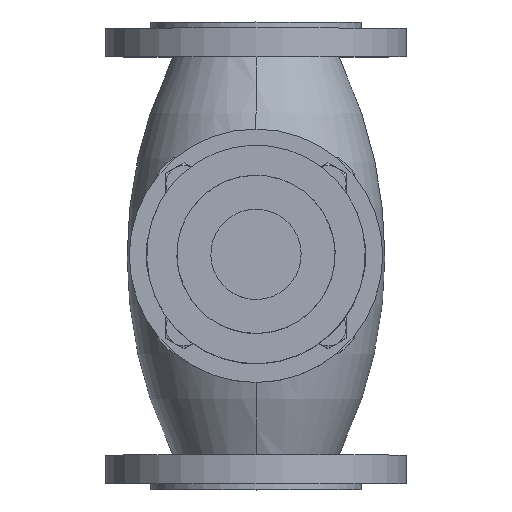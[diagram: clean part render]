
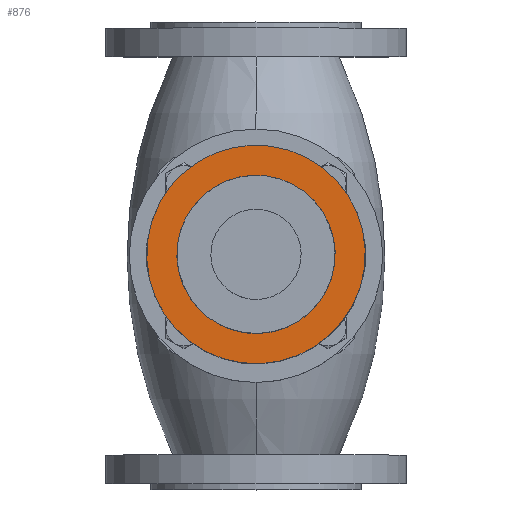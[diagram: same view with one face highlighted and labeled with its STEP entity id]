
A CAD part, top view. The second image highlights one B-rep face of the part: STEP entity #876.
In plain terms, the highlighted planar face has unit normal (0, 0, 1).
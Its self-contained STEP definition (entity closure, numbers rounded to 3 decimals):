
#824 = ORIENTED_EDGE ( 'NONE', *, *, #946, .T. ) ;
#876 = ADVANCED_FACE ( 'NONE', ( #11021, #2956 ), #7474, .F. ) ;
#946 = EDGE_CURVE ( 'NONE', #5479, #6588, #10511, .T. ) ;
#1181 = DIRECTION ( 'NONE',  ( 0., -1., 0. ) ) ;
#2091 = VERTEX_POINT ( 'NONE', #6744 ) ;
#2362 = EDGE_LOOP ( 'NONE', ( #824, #10964 ) ) ;
#2544 = EDGE_CURVE ( 'NONE', #6588, #5479, #3979, .T. ) ;
#2678 = DIRECTION ( 'NONE',  ( -0.924, -0.383, 0. ) ) ;
#2708 = ORIENTED_EDGE ( 'NONE', *, *, #11374, .F. ) ;
#2738 = CARTESIAN_POINT ( 'NONE',  ( 72.5, -175., 44. ) ) ;
#2956 = FACE_BOUND ( 'NONE', #5549, .T. ) ;
#3743 = CARTESIAN_POINT ( 'NONE',  ( 23.996, -195.091, 44. ) ) ;
#3979 = CIRCLE ( 'NONE', #6433, 72.434 ) ;
#4449 = AXIS2_PLACEMENT_3D ( 'NONE', #6540, #10146, #1181 ) ;
#4476 = AXIS2_PLACEMENT_3D ( 'NONE', #9750, #6045, #5317 ) ;
#5317 = DIRECTION ( 'NONE',  ( -0.924, -0.383, 0. ) ) ;
#5479 = VERTEX_POINT ( 'NONE', #7812 ) ;
#5549 = EDGE_LOOP ( 'NONE', ( #2708, #6192 ) ) ;
#5893 = DIRECTION ( 'NONE',  ( 0., 0., 1. ) ) ;
#6045 = DIRECTION ( 'NONE',  ( 0., 0., 1. ) ) ;
#6192 = ORIENTED_EDGE ( 'NONE', *, *, #6529, .F. ) ;
#6433 = AXIS2_PLACEMENT_3D ( 'NONE', #2738, #10750, #2678 ) ;
#6529 = EDGE_CURVE ( 'NONE', #7497, #2091, #9147, .T. ) ;
#6540 = CARTESIAN_POINT ( 'NONE',  ( 5.579, -202.719, 44. ) ) ;
#6588 = VERTEX_POINT ( 'NONE', #7595 ) ;
#6744 = CARTESIAN_POINT ( 'NONE',  ( 121.004, -154.909, 44. ) ) ;
#6961 = CARTESIAN_POINT ( 'NONE',  ( 72.5, -175., 44. ) ) ;
#7285 = AXIS2_PLACEMENT_3D ( 'NONE', #6961, #10450, #8541 ) ;
#7474 = PLANE ( 'NONE',  #4449 ) ;
#7497 = VERTEX_POINT ( 'NONE', #3743 ) ;
#7595 = CARTESIAN_POINT ( 'NONE',  ( 139.421, -147.281, 44. ) ) ;
#7812 = CARTESIAN_POINT ( 'NONE',  ( 5.579, -202.719, 44. ) ) ;
#7879 = CIRCLE ( 'NONE', #4476, 52.5 ) ;
#8534 = CARTESIAN_POINT ( 'NONE',  ( 72.5, -175., 44. ) ) ;
#8541 = DIRECTION ( 'NONE',  ( -0.924, -0.383, 0. ) ) ;
#9147 = CIRCLE ( 'NONE', #9539, 52.5 ) ;
#9539 = AXIS2_PLACEMENT_3D ( 'NONE', #8534, #5893, #11319 ) ;
#9750 = CARTESIAN_POINT ( 'NONE',  ( 72.5, -175., 44. ) ) ;
#10146 = DIRECTION ( 'NONE',  ( 0., 0., -1. ) ) ;
#10450 = DIRECTION ( 'NONE',  ( 0., 0., 1. ) ) ;
#10511 = CIRCLE ( 'NONE', #7285, 72.434 ) ;
#10750 = DIRECTION ( 'NONE',  ( 0., 0., 1. ) ) ;
#10964 = ORIENTED_EDGE ( 'NONE', *, *, #2544, .T. ) ;
#11021 = FACE_OUTER_BOUND ( 'NONE', #2362, .T. ) ;
#11319 = DIRECTION ( 'NONE',  ( -0.924, -0.383, 0. ) ) ;
#11374 = EDGE_CURVE ( 'NONE', #2091, #7497, #7879, .T. ) ;
